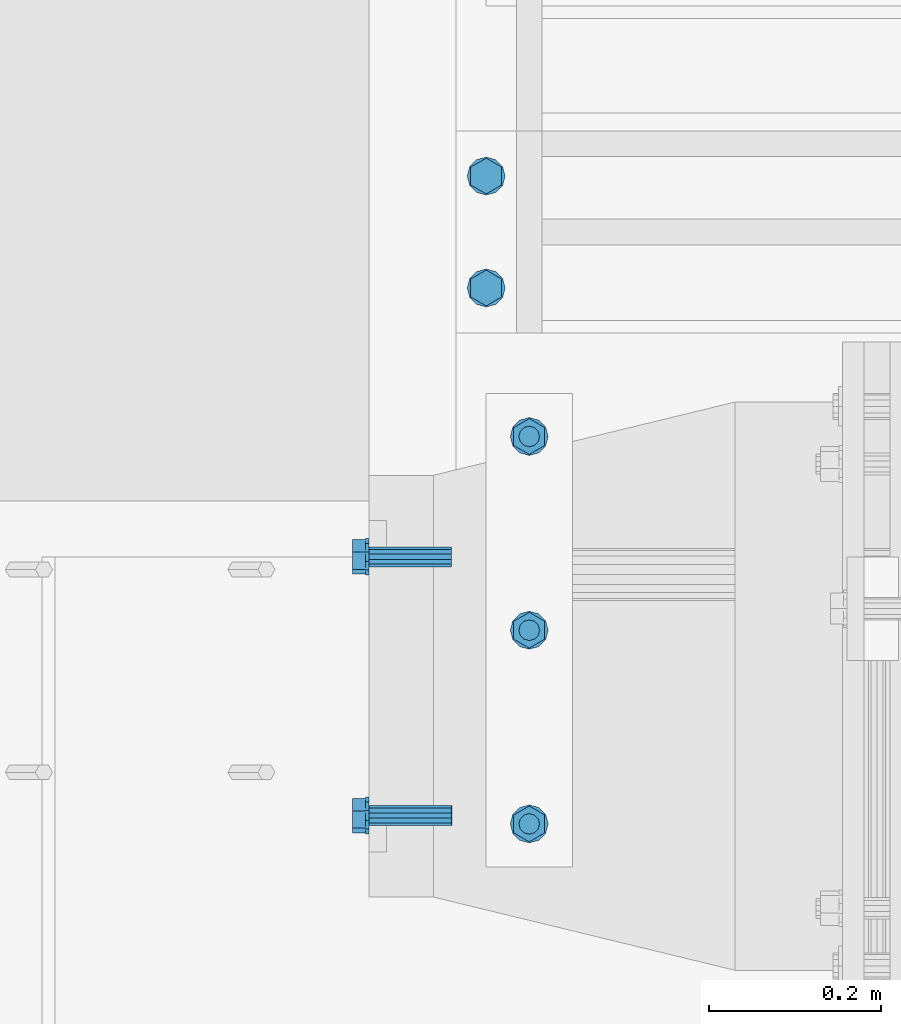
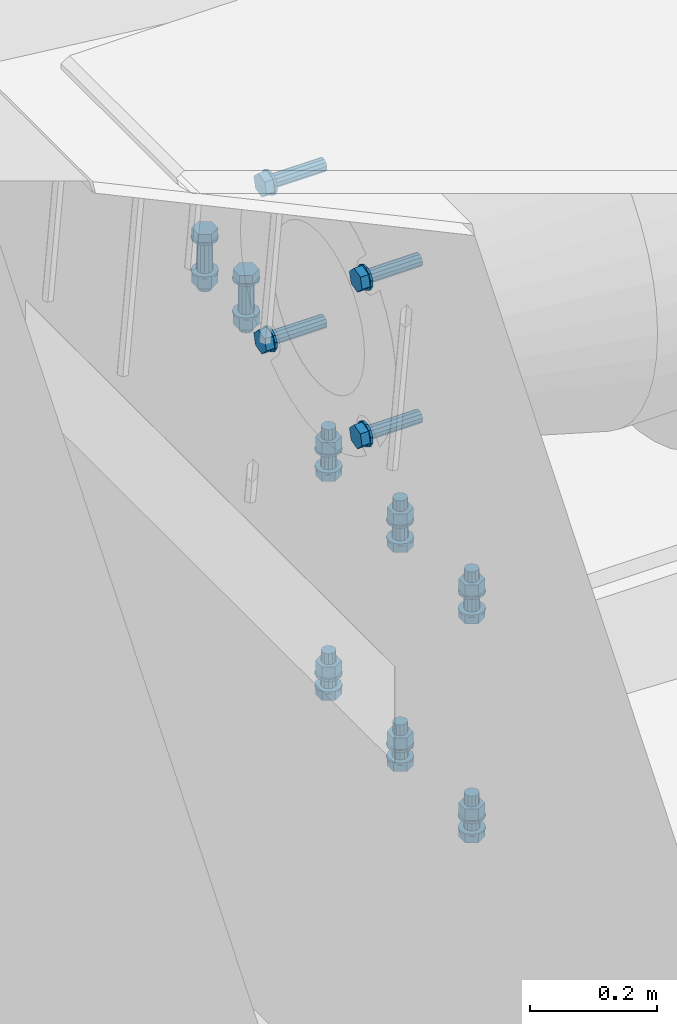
# One storey, part 32 of 1530: 4 mechanical fasteners.
"""IFC2X3 building model written with IfcOpenShell, lengths in millimetres."""

from ifc_helpers import new_model, si_unit, frame, origin_with_axes, place, context, subcontext, project, spatial, faceted_brep, source, transform, mapped, material, type_object, element, save


model = new_model("IFC2X3")

# Units and contexts
model_context = context("Model", 3, precision=1e-05, world=origin_with_axes())
body_context = subcontext(model_context, "Body", "Model", "MODEL_VIEW")
ifc_project = project(units=[si_unit("LENGTHUNIT", "METRE", prefix="MILLI"), si_unit("AREAUNIT", "SQUARE_METRE"), si_unit("VOLUMEUNIT", "CUBIC_METRE"), si_unit("MASSUNIT", "GRAM", prefix="KILO"), si_unit("TIMEUNIT", "SECOND"), si_unit("PLANEANGLEUNIT", "RADIAN"), si_unit("SOLIDANGLEUNIT", "STERADIAN"), si_unit("THERMODYNAMICTEMPERATUREUNIT", "DEGREE_CELSIUS"), si_unit("LUMINOUSINTENSITYUNIT", "LUMEN")], contexts=[model_context])

# Site, building, storey
site_placement = place(None, origin_with_axes())
site = spatial("IfcSite", under=ifc_project, at=site_placement, Name="Brattvåg", CompositionType="ELEMENT")
building_placement = place(site_placement, origin_with_axes())
building = spatial("IfcBuilding", under=site, at=building_placement, Name="Undefined", CompositionType="ELEMENT")
storey_placement = place(building_placement, origin_with_axes())
storey = spatial("IfcBuildingStorey", under=building, at=storey_placement, Name="Undefined", CompositionType="ELEMENT", Elevation=0.0)

# Mechanical fasteners
ifc_material = material(Name="8")
mechanical_fastener_type = type_object("IfcMechanicalFastenerType", Name="Bolt assembly")
shared_shape_1 = source(origin_with_axes(), body_context, "Body", "Brep", [
    faceted_brep([(20.7846096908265, -39.0003051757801, 0.0), (10.3923048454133, -39.0003051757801, 18.0), (-10.3923048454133, -39.0003051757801, 18.0), (-20.7846096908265, -39.0003051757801, 2.54538057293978e-15), (-10.3923048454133, -39.0003051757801, -18.0), (10.3923048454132, -39.0003051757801, -18.0), (10.3923048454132, -24.0003051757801, -18.0), (-10.3923048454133, -24.0003051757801, -18.0), (-20.7846096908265, -24.0003051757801, 2.54538057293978e-15), (-10.3923048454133, -24.0003051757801, 18.0), (10.3923048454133, -24.0003051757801, 18.0), (20.7846096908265, -24.0003051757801, 0.0), (12.0, -24.0003051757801, 0.0), (10.3923048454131, -24.0003051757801, 6.00000000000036), (5.99999999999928, -24.0003051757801, 10.3923048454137), (-1.24360317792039e-12, -24.0003051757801, 12.0), (-6.00000000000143, -24.0003051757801, 10.3923048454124), (-10.3923048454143, -24.0003051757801, 5.99999999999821), (-12.0, -24.0003051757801, -2.48720635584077e-12), (-10.3923048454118, -24.0003051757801, -6.00000000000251), (-5.99999999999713, -24.0003051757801, -10.3923048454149), (3.71748685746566e-12, -24.0003051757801, -12.0), (6.00000000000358, -24.0003051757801, -10.3923048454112), (10.3923048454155, -24.0003051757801, -5.99999999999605), (10.3923048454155, 45.9996948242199, -5.99999999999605), (6.00000000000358, 45.9996948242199, -10.3923048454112), (3.71748685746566e-12, 45.9996948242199, -12.0), (-5.99999999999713, 45.9996948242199, -10.3923048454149), (-10.3923048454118, 45.9996948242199, -6.00000000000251), (-12.0, 45.9996948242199, -2.48720635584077e-12), (-10.3923048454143, 45.9996948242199, 5.99999999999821), (-6.00000000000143, 45.9996948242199, 10.3923048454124), (-1.24360317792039e-12, 45.9996948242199, 12.0), (5.99999999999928, 45.9996948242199, 10.3923048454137), (10.3923048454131, 45.9996948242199, 6.00000000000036), (12.0, 45.9996948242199, 0.0), (22.0, -24.0003051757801, 0.0), (19.0525588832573, -24.0003051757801, 11.0000000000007), (10.9999999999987, -24.0003051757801, 19.0525588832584), (-2.27993915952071e-12, -24.0003051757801, 22.0), (-11.0000000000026, -24.0003051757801, 19.0525588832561), (-19.0525588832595, -24.0003051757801, 10.9999999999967), (-22.0, -24.0003051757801, -4.55987831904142e-12), (-19.052558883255, -24.0003051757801, -11.0000000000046), (-10.9999999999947, -24.0003051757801, -19.0525588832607), (6.81539257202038e-12, -24.0003051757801, -22.0), (11.0000000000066, -24.0003051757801, -19.0525588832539), (19.0525588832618, -24.0003051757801, -10.9999999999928), (19.0525588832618, -20.0003051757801, -10.9999999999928), (11.0000000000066, -20.0003051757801, -19.0525588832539), (6.81539257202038e-12, -20.0003051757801, -22.0), (-10.9999999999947, -20.0003051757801, -19.0525588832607), (-19.052558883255, -20.0003051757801, -11.0000000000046), (-22.0, -20.0003051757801, -4.55987831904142e-12), (-19.0525588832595, -20.0003051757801, 10.9999999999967), (-11.0000000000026, -20.0003051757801, 19.0525588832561), (-2.27993915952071e-12, -20.0003051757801, 22.0), (10.9999999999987, -20.0003051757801, 19.0525588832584), (19.0525588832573, -20.0003051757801, 11.0000000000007), (22.0, -20.0003051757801, 0.0), (22.0, -0.000305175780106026, 0.0), (19.0525588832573, -0.000305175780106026, 11.0000000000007), (10.9999999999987, -0.000305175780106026, 19.0525588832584), (-2.27993915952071e-12, -0.000305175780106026, 22.0), (-11.0000000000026, -0.000305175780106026, 19.0525588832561), (-19.0525588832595, -0.000305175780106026, 10.9999999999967), (-22.0, -0.000305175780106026, -4.55987831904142e-12), (-19.052558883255, -0.000305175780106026, -11.0000000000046), (-10.9999999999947, -0.000305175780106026, -19.0525588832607), (6.81539257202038e-12, -0.000305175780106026, -22.0), (11.0000000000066, -0.000305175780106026, -19.0525588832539), (19.0525588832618, -0.000305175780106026, -10.9999999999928), (19.0525588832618, 3.99969482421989, -10.9999999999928), (11.0000000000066, 3.99969482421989, -19.0525588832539), (6.81539257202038e-12, 3.99969482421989, -22.0), (-10.9999999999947, 3.99969482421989, -19.0525588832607), (-19.052558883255, 3.99969482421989, -11.0000000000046), (-22.0, 3.99969482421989, -4.55987831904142e-12), (-19.0525588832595, 3.99969482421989, 10.9999999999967), (-11.0000000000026, 3.99969482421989, 19.0525588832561), (-2.27993915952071e-12, 3.99969482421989, 22.0), (10.9999999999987, 3.99969482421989, 19.0525588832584), (19.0525588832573, 3.99969482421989, 11.0000000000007), (22.0, 3.99969482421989, 0.0), (20.7846096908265, 3.99969482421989, 0.0), (10.3923048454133, 3.99969482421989, 18.0), (-10.3923048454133, 3.99969482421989, 18.0), (-20.7846096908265, 3.99969482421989, 2.54538057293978e-15), (-10.3923048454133, 3.99969482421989, -18.0), (10.3923048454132, 3.99969482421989, -18.0), (10.3923048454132, 25.4996948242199, -18.0), (-10.3923048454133, 25.4996948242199, -18.0), (-20.7846096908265, 25.4996948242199, 2.54538057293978e-15), (-10.3923048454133, 25.4996948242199, 18.0), (10.3923048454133, 25.4996948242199, 18.0), (20.7846096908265, 25.4996948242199, 0.0)], [[[0, 1, 2, 3, 4, 5]], [[6, 7, 8, 9, 10, 11]], [[0, 11, 10, 1]], [[1, 10, 9, 2]], [[2, 9, 8, 3]], [[3, 8, 7, 4]], [[4, 7, 6, 5]], [[5, 6, 11, 0]], [[12, 13, 14, 15, 16, 17, 18, 19, 20, 21, 22, 23]], [[24, 25, 26, 27, 28, 29, 30, 31, 32, 33, 34, 35]], [[12, 35, 34, 13]], [[13, 34, 33, 14]], [[14, 33, 32, 15]], [[15, 32, 31, 16]], [[16, 31, 30, 17]], [[17, 30, 29, 18]], [[18, 29, 28, 19]], [[19, 28, 27, 20]], [[20, 27, 26, 21]], [[21, 26, 25, 22]], [[22, 25, 24, 23]], [[23, 24, 35, 12]], [[36, 37, 38, 39, 40, 41, 42, 43, 44, 45, 46, 47]], [[48, 49, 50, 51, 52, 53, 54, 55, 56, 57, 58, 59]], [[36, 59, 58, 37]], [[37, 58, 57, 38]], [[38, 57, 56, 39]], [[39, 56, 55, 40]], [[40, 55, 54, 41]], [[41, 54, 53, 42]], [[42, 53, 52, 43]], [[43, 52, 51, 44]], [[44, 51, 50, 45]], [[45, 50, 49, 46]], [[46, 49, 48, 47]], [[47, 48, 59, 36]], [[60, 61, 62, 63, 64, 65, 66, 67, 68, 69, 70, 71]], [[72, 73, 74, 75, 76, 77, 78, 79, 80, 81, 82, 83]], [[60, 83, 82, 61]], [[61, 82, 81, 62]], [[62, 81, 80, 63]], [[63, 80, 79, 64]], [[64, 79, 78, 65]], [[65, 78, 77, 66]], [[66, 77, 76, 67]], [[67, 76, 75, 68]], [[68, 75, 74, 69]], [[69, 74, 73, 70]], [[70, 73, 72, 71]], [[71, 72, 83, 60]], [[84, 85, 86, 87, 88, 89]], [[90, 91, 92, 93, 94, 95]], [[84, 95, 94, 85]], [[85, 94, 93, 86]], [[86, 93, 92, 87]], [[87, 92, 91, 88]], [[88, 91, 90, 89]], [[89, 90, 95, 84]]]),
    faceted_brep([(13.0, -20.0003051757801, 0.0), (11.2583302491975, -20.0003051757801, 6.50000000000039), (6.49999999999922, -20.0003051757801, 11.2583302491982), (-1.34723677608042e-12, -20.0003051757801, 13.0), (-6.50000000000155, -20.0003051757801, 11.2583302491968), (-11.2583302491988, -20.0003051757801, 6.49999999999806), (-13.0, -20.0003051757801, -2.69447355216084e-12), (-11.2583302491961, -20.0003051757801, -6.50000000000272), (-6.4999999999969, -20.0003051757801, -11.2583302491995), (4.02727742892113e-12, -20.0003051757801, -13.0), (6.50000000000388, -20.0003051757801, -11.2583302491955), (11.2583302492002, -20.0003051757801, -6.49999999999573), (11.2583302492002, 0.0996948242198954, -6.49999999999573), (6.50000000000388, 0.0996948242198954, -11.2583302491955), (4.02727742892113e-12, 0.0996948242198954, -13.0), (-6.4999999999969, 0.0996948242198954, -11.2583302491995), (-11.2583302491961, 0.0996948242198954, -6.50000000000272), (-13.0, 0.0996948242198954, -2.69447355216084e-12), (-11.2583302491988, 0.0996948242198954, 6.49999999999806), (-6.50000000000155, 0.0996948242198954, 11.2583302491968), (-1.34723677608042e-12, 0.0996948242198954, 13.0), (6.49999999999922, 0.0996948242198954, 11.2583302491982), (11.2583302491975, 0.0996948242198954, 6.50000000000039), (13.0, 0.0996948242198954, 0.0)], [[[0, 1, 2, 3, 4, 5, 6, 7, 8, 9, 10, 11]], [[12, 13, 14, 15, 16, 17, 18, 19, 20, 21, 22, 23]], [[0, 23, 22, 1]], [[1, 22, 21, 2]], [[2, 21, 20, 3]], [[3, 20, 19, 4]], [[4, 19, 18, 5]], [[5, 18, 17, 6]], [[6, 17, 16, 7]], [[7, 16, 15, 8]], [[8, 15, 14, 9]], [[9, 14, 13, 10]], [[10, 13, 12, 11]], [[11, 12, 23, 0]]]),
])
mechanical_fastener_1_placement = place(storey_placement, frame((-438.999490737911, 8839.99881744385, -1458.00001144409), z_axis=(1.0, 0.0, 0.0), x_axis=(0.0, 1.0, 0.0)))
element("IfcMechanicalFastener", 1, at=mechanical_fastener_1_placement, inside=storey, type_object=mechanical_fastener_type, material=ifc_material, Name="Bolt assembly", NominalDiameter=24.0, NominalLength=70.0, context=body_context, shape_type="MappedRepresentation", body=[
    mapped(shared_shape_1, transform((0.0, 0.0, 0.0))),
    mapped(shared_shape_1, transform((225.0, 0.0, 0.0))),
    mapped(shared_shape_1, transform((450.0, 0.0, 0.0))),
])
shared_shape_2 = source(origin_with_axes(), body_context, "Body", "Brep", [
    faceted_brep([(20.7846096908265, -49.0000000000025, 0.0), (10.3923048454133, -49.0000000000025, 18.0), (-10.3923048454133, -49.0000000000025, 18.0), (-20.7846096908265, -49.0000000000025, 2.54538057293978e-15), (-10.3923048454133, -49.0000000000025, -18.0), (10.3923048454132, -49.0000000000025, -18.0), (10.3923048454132, -34.0000000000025, -18.0), (-10.3923048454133, -34.0000000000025, -18.0), (-20.7846096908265, -34.0000000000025, 2.54538057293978e-15), (-10.3923048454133, -34.0000000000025, 18.0), (10.3923048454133, -34.0000000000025, 18.0), (20.7846096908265, -34.0000000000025, 0.0), (12.0, -34.0000000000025, 0.0), (10.3923048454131, -34.0000000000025, 6.00000000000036), (5.99999999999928, -34.0000000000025, 10.3923048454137), (-1.24360317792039e-12, -34.0000000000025, 12.0), (-6.00000000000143, -34.0000000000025, 10.3923048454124), (-10.3923048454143, -34.0000000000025, 5.99999999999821), (-12.0, -34.0000000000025, -2.48720635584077e-12), (-10.3923048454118, -34.0000000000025, -6.00000000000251), (-5.99999999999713, -34.0000000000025, -10.3923048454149), (3.71748685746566e-12, -34.0000000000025, -12.0), (6.00000000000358, -34.0000000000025, -10.3923048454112), (10.3923048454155, -34.0000000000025, -5.99999999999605), (10.3923048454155, 65.9999999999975, -5.99999999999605), (6.00000000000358, 65.9999999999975, -10.3923048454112), (3.71748685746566e-12, 65.9999999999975, -12.0), (-5.99999999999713, 65.9999999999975, -10.3923048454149), (-10.3923048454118, 65.9999999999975, -6.00000000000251), (-12.0, 65.9999999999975, -2.48720635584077e-12), (-10.3923048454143, 65.9999999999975, 5.99999999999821), (-6.00000000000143, 65.9999999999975, 10.3923048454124), (-1.24360317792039e-12, 65.9999999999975, 12.0), (5.99999999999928, 65.9999999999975, 10.3923048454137), (10.3923048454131, 65.9999999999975, 6.00000000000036), (12.0, 65.9999999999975, 0.0), (22.0, -34.0000000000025, 0.0), (19.0525588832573, -34.0000000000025, 11.0000000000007), (10.9999999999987, -34.0000000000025, 19.0525588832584), (-2.27993915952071e-12, -34.0000000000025, 22.0), (-11.0000000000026, -34.0000000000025, 19.0525588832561), (-19.0525588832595, -34.0000000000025, 10.9999999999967), (-22.0, -34.0000000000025, -4.55987831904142e-12), (-19.052558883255, -34.0000000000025, -11.0000000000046), (-10.9999999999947, -34.0000000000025, -19.0525588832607), (6.81539257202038e-12, -34.0000000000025, -22.0), (11.0000000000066, -34.0000000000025, -19.0525588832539), (19.0525588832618, -34.0000000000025, -10.9999999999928), (19.0525588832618, -30.0000000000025, -10.9999999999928), (11.0000000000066, -30.0000000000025, -19.0525588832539), (6.81539257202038e-12, -30.0000000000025, -22.0), (-10.9999999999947, -30.0000000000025, -19.0525588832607), (-19.052558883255, -30.0000000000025, -11.0000000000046), (-22.0, -30.0000000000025, -4.55987831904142e-12), (-19.0525588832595, -30.0000000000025, 10.9999999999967), (-11.0000000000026, -30.0000000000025, 19.0525588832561), (-2.27993915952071e-12, -30.0000000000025, 22.0), (10.9999999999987, -30.0000000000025, 19.0525588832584), (19.0525588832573, -30.0000000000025, 11.0000000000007), (22.0, -30.0000000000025, 0.0), (22.0, 29.9999999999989, 0.0), (19.0525588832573, 29.9999999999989, 11.0000000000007), (10.9999999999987, 29.9999999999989, 19.0525588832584), (-2.27993915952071e-12, 29.9999999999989, 22.0), (-11.0000000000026, 29.9999999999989, 19.0525588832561), (-19.0525588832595, 29.9999999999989, 10.9999999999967), (-22.0, 29.9999999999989, -4.55987831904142e-12), (-19.052558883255, 29.9999999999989, -11.0000000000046), (-10.9999999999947, 29.9999999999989, -19.0525588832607), (6.81539257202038e-12, 29.9999999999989, -22.0), (11.0000000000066, 29.9999999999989, -19.0525588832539), (19.0525588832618, 29.9999999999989, -10.9999999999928), (19.0525588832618, 33.9999999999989, -10.9999999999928), (11.0000000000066, 33.9999999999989, -19.0525588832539), (6.81539257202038e-12, 33.9999999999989, -22.0), (-10.9999999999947, 33.9999999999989, -19.0525588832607), (-19.052558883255, 33.9999999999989, -11.0000000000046), (-22.0, 33.9999999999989, -4.55987831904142e-12), (-19.0525588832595, 33.9999999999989, 10.9999999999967), (-11.0000000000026, 33.9999999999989, 19.0525588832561), (-2.27993915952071e-12, 33.9999999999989, 22.0), (10.9999999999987, 33.9999999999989, 19.0525588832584), (19.0525588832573, 33.9999999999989, 11.0000000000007), (22.0, 33.9999999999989, 0.0), (20.7846096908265, 33.9999999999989, 0.0), (10.3923048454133, 33.9999999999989, 18.0), (-10.3923048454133, 33.9999999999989, 18.0), (-20.7846096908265, 33.9999999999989, 2.54538057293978e-15), (-10.3923048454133, 33.9999999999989, -18.0), (10.3923048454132, 33.9999999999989, -18.0), (10.3923048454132, 55.4999999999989, -18.0), (-10.3923048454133, 55.4999999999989, -18.0), (-20.7846096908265, 55.4999999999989, 2.54538057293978e-15), (-10.3923048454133, 55.4999999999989, 18.0), (10.3923048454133, 55.4999999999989, 18.0), (20.7846096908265, 55.4999999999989, 0.0)], [[[0, 1, 2, 3, 4, 5]], [[6, 7, 8, 9, 10, 11]], [[0, 11, 10, 1]], [[1, 10, 9, 2]], [[2, 9, 8, 3]], [[3, 8, 7, 4]], [[4, 7, 6, 5]], [[5, 6, 11, 0]], [[12, 13, 14, 15, 16, 17, 18, 19, 20, 21, 22, 23]], [[24, 25, 26, 27, 28, 29, 30, 31, 32, 33, 34, 35]], [[12, 35, 34, 13]], [[13, 34, 33, 14]], [[14, 33, 32, 15]], [[15, 32, 31, 16]], [[16, 31, 30, 17]], [[17, 30, 29, 18]], [[18, 29, 28, 19]], [[19, 28, 27, 20]], [[20, 27, 26, 21]], [[21, 26, 25, 22]], [[22, 25, 24, 23]], [[23, 24, 35, 12]], [[36, 37, 38, 39, 40, 41, 42, 43, 44, 45, 46, 47]], [[48, 49, 50, 51, 52, 53, 54, 55, 56, 57, 58, 59]], [[36, 59, 58, 37]], [[37, 58, 57, 38]], [[38, 57, 56, 39]], [[39, 56, 55, 40]], [[40, 55, 54, 41]], [[41, 54, 53, 42]], [[42, 53, 52, 43]], [[43, 52, 51, 44]], [[44, 51, 50, 45]], [[45, 50, 49, 46]], [[46, 49, 48, 47]], [[47, 48, 59, 36]], [[60, 61, 62, 63, 64, 65, 66, 67, 68, 69, 70, 71]], [[72, 73, 74, 75, 76, 77, 78, 79, 80, 81, 82, 83]], [[60, 83, 82, 61]], [[61, 82, 81, 62]], [[62, 81, 80, 63]], [[63, 80, 79, 64]], [[64, 79, 78, 65]], [[65, 78, 77, 66]], [[66, 77, 76, 67]], [[67, 76, 75, 68]], [[68, 75, 74, 69]], [[69, 74, 73, 70]], [[70, 73, 72, 71]], [[71, 72, 83, 60]], [[84, 85, 86, 87, 88, 89]], [[90, 91, 92, 93, 94, 95]], [[84, 95, 94, 85]], [[85, 94, 93, 86]], [[86, 93, 92, 87]], [[87, 92, 91, 88]], [[88, 91, 90, 89]], [[89, 90, 95, 84]]]),
    faceted_brep([(13.0, -29.9000000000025, 0.0), (11.2583302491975, -29.9000000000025, 6.50000000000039), (6.49999999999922, -29.9000000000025, 11.2583302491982), (-1.34723677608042e-12, -29.9000000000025, 13.0), (-6.50000000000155, -29.9000000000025, 11.2583302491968), (-11.2583302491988, -29.9000000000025, 6.49999999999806), (-13.0, -29.9000000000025, -2.69447355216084e-12), (-11.2583302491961, -29.9000000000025, -6.50000000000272), (-6.4999999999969, -29.9000000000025, -11.2583302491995), (4.02727742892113e-12, -29.9000000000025, -13.0), (6.50000000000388, -29.9000000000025, -11.2583302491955), (11.2583302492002, -29.9000000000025, -6.49999999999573), (11.2583302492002, 0.0999999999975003, -6.49999999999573), (6.50000000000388, 0.0999999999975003, -11.2583302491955), (4.02727742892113e-12, 0.0999999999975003, -13.0), (-6.4999999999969, 0.0999999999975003, -11.2583302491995), (-11.2583302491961, 0.0999999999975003, -6.50000000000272), (-13.0, 0.0999999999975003, -2.69447355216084e-12), (-11.2583302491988, 0.0999999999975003, 6.49999999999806), (-6.50000000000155, 0.0999999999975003, 11.2583302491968), (-1.34723677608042e-12, 0.0999999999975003, 13.0), (6.49999999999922, 0.0999999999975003, 11.2583302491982), (11.2583302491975, 0.0999999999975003, 6.50000000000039), (13.0, 0.0999999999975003, 0.0), (13.0, -0.100000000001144, 0.0), (11.2583302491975, -0.100000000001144, 6.50000000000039), (6.49999999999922, -0.100000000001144, 11.2583302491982), (-1.34723677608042e-12, -0.100000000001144, 13.0), (-6.50000000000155, -0.100000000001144, 11.2583302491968), (-11.2583302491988, -0.100000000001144, 6.49999999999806), (-13.0, -0.100000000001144, -2.69447355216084e-12), (-11.2583302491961, -0.100000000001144, -6.50000000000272), (-6.4999999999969, -0.100000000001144, -11.2583302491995), (4.02727742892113e-12, -0.100000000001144, -13.0), (6.50000000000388, -0.100000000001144, -11.2583302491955), (11.2583302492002, -0.100000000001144, -6.49999999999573), (11.2583302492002, 29.9999999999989, -6.49999999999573), (6.50000000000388, 29.9999999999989, -11.2583302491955), (4.02727742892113e-12, 29.9999999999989, -13.0), (-6.4999999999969, 29.9999999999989, -11.2583302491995), (-11.2583302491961, 29.9999999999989, -6.50000000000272), (-13.0, 29.9999999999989, -2.69447355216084e-12), (-11.2583302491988, 29.9999999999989, 6.49999999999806), (-6.50000000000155, 29.9999999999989, 11.2583302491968), (-1.34723677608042e-12, 29.9999999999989, 13.0), (6.49999999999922, 29.9999999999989, 11.2583302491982), (11.2583302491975, 29.9999999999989, 6.50000000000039), (13.0, 29.9999999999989, 0.0)], [[[0, 1, 2, 3, 4, 5, 6, 7, 8, 9, 10, 11]], [[12, 13, 14, 15, 16, 17, 18, 19, 20, 21, 22, 23]], [[0, 23, 22, 1]], [[1, 22, 21, 2]], [[2, 21, 20, 3]], [[3, 20, 19, 4]], [[4, 19, 18, 5]], [[5, 18, 17, 6]], [[6, 17, 16, 7]], [[7, 16, 15, 8]], [[8, 15, 14, 9]], [[9, 14, 13, 10]], [[10, 13, 12, 11]], [[11, 12, 23, 0]], [[24, 25, 26, 27, 28, 29, 30, 31, 32, 33, 34, 35]], [[36, 37, 38, 39, 40, 41, 42, 43, 44, 45, 46, 47]], [[24, 47, 46, 25]], [[25, 46, 45, 26]], [[26, 45, 44, 27]], [[27, 44, 43, 28]], [[28, 43, 42, 29]], [[29, 42, 41, 30]], [[30, 41, 40, 31]], [[31, 40, 39, 32]], [[32, 39, 38, 33]], [[33, 38, 37, 34]], [[34, 37, 36, 35]], [[35, 36, 47, 24]]]),
])
mechanical_fastener_2_placement = place(storey_placement, frame((-488.999828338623, 9592.49893188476, -817.999973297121), z_axis=(1.0, 0.0, 0.0), x_axis=(0.0, -1.0, 0.0)))
element("IfcMechanicalFastener", 2, at=mechanical_fastener_2_placement, inside=storey, type_object=mechanical_fastener_type, material=ifc_material, Name="Bolt assembly", NominalDiameter=24.0, NominalLength=100.0, context=body_context, shape_type="MappedRepresentation", body=[
    mapped(shared_shape_2, transform((0.0, 0.0, 0.0))),
    mapped(shared_shape_2, transform((130.0, 0.0, 0.0))),
])
shared_shape_3 = source(origin_with_axes(), body_context, "Body", "Brep", [
    faceted_brep([(20.7846096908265, -49.0000000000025, 0.0), (10.3923048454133, -49.0000000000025, 18.0), (-10.3923048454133, -49.0000000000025, 18.0), (-20.7846096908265, -49.0000000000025, 2.54538057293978e-15), (-10.3923048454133, -49.0000000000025, -18.0), (10.3923048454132, -49.0000000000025, -18.0), (10.3923048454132, -34.0000000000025, -18.0), (-10.3923048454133, -34.0000000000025, -18.0), (-20.7846096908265, -34.0000000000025, 2.54538057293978e-15), (-10.3923048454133, -34.0000000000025, 18.0), (10.3923048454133, -34.0000000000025, 18.0), (20.7846096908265, -34.0000000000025, 0.0), (12.0, -34.0000000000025, 0.0), (10.3923048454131, -34.0000000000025, 6.00000000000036), (5.99999999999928, -34.0000000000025, 10.3923048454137), (-1.24360317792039e-12, -34.0000000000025, 12.0), (-6.00000000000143, -34.0000000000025, 10.3923048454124), (-10.3923048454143, -34.0000000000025, 5.99999999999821), (-12.0, -34.0000000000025, -2.48720635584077e-12), (-10.3923048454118, -34.0000000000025, -6.00000000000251), (-5.99999999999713, -34.0000000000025, -10.3923048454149), (3.71748685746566e-12, -34.0000000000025, -12.0), (6.00000000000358, -34.0000000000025, -10.3923048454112), (10.3923048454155, -34.0000000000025, -5.99999999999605), (10.3923048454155, 46.0, -5.99999999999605), (6.00000000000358, 46.0, -10.3923048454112), (3.71748685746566e-12, 46.0, -12.0), (-5.99999999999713, 46.0, -10.3923048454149), (-10.3923048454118, 46.0, -6.00000000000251), (-12.0, 46.0, -2.48720635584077e-12), (-10.3923048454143, 46.0, 5.99999999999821), (-6.00000000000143, 46.0, 10.3923048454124), (-1.24360317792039e-12, 46.0, 12.0), (5.99999999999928, 46.0, 10.3923048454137), (10.3923048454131, 46.0, 6.00000000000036), (12.0, 46.0, 0.0), (22.0, -34.0000000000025, 0.0), (19.0525588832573, -34.0000000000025, 11.0000000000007), (10.9999999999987, -34.0000000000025, 19.0525588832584), (-2.27993915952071e-12, -34.0000000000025, 22.0), (-11.0000000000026, -34.0000000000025, 19.0525588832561), (-19.0525588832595, -34.0000000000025, 10.9999999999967), (-22.0, -34.0000000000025, -4.55987831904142e-12), (-19.052558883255, -34.0000000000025, -11.0000000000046), (-10.9999999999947, -34.0000000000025, -19.0525588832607), (6.81539257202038e-12, -34.0000000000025, -22.0), (11.0000000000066, -34.0000000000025, -19.0525588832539), (19.0525588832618, -34.0000000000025, -10.9999999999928), (19.0525588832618, -30.0000000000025, -10.9999999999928), (11.0000000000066, -30.0000000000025, -19.0525588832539), (6.81539257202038e-12, -30.0000000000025, -22.0), (-10.9999999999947, -30.0000000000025, -19.0525588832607), (-19.052558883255, -30.0000000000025, -11.0000000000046), (-22.0, -30.0000000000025, -4.55987831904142e-12), (-19.0525588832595, -30.0000000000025, 10.9999999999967), (-11.0000000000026, -30.0000000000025, 19.0525588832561), (-2.27993915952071e-12, -30.0000000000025, 22.0), (10.9999999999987, -30.0000000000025, 19.0525588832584), (19.0525588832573, -30.0000000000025, 11.0000000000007), (22.0, -30.0000000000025, 0.0), (22.0, 0.0, 0.0), (19.0525588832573, 0.0, 11.0000000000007), (10.9999999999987, 0.0, 19.0525588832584), (-2.27993915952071e-12, 0.0, 22.0), (-11.0000000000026, 0.0, 19.0525588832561), (-19.0525588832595, 0.0, 10.9999999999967), (-22.0, 0.0, -4.55987831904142e-12), (-19.052558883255, 0.0, -11.0000000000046), (-10.9999999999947, 0.0, -19.0525588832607), (6.81539257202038e-12, 0.0, -22.0), (11.0000000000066, 0.0, -19.0525588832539), (19.0525588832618, 0.0, -10.9999999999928), (19.0525588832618, 4.0, -10.9999999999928), (11.0000000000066, 4.0, -19.0525588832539), (6.81539257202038e-12, 4.0, -22.0), (-10.9999999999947, 4.0, -19.0525588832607), (-19.052558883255, 4.0, -11.0000000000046), (-22.0, 4.0, -4.55987831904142e-12), (-19.0525588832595, 4.0, 10.9999999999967), (-11.0000000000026, 4.0, 19.0525588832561), (-2.27993915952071e-12, 4.0, 22.0), (10.9999999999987, 4.0, 19.0525588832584), (19.0525588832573, 4.0, 11.0000000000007), (22.0, 4.0, 0.0), (20.7846096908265, 4.0, 0.0), (10.3923048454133, 4.0, 18.0), (-10.3923048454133, 4.0, 18.0), (-20.7846096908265, 4.0, 2.54538057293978e-15), (-10.3923048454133, 4.0, -18.0), (10.3923048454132, 4.0, -18.0), (10.3923048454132, 25.5, -18.0), (-10.3923048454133, 25.5, -18.0), (-20.7846096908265, 25.5, 2.54538057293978e-15), (-10.3923048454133, 25.5, 18.0), (10.3923048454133, 25.5, 18.0), (20.7846096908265, 25.5, 0.0)], [[[0, 1, 2, 3, 4, 5]], [[6, 7, 8, 9, 10, 11]], [[0, 11, 10, 1]], [[1, 10, 9, 2]], [[2, 9, 8, 3]], [[3, 8, 7, 4]], [[4, 7, 6, 5]], [[5, 6, 11, 0]], [[12, 13, 14, 15, 16, 17, 18, 19, 20, 21, 22, 23]], [[24, 25, 26, 27, 28, 29, 30, 31, 32, 33, 34, 35]], [[12, 35, 34, 13]], [[13, 34, 33, 14]], [[14, 33, 32, 15]], [[15, 32, 31, 16]], [[16, 31, 30, 17]], [[17, 30, 29, 18]], [[18, 29, 28, 19]], [[19, 28, 27, 20]], [[20, 27, 26, 21]], [[21, 26, 25, 22]], [[22, 25, 24, 23]], [[23, 24, 35, 12]], [[36, 37, 38, 39, 40, 41, 42, 43, 44, 45, 46, 47]], [[48, 49, 50, 51, 52, 53, 54, 55, 56, 57, 58, 59]], [[36, 59, 58, 37]], [[37, 58, 57, 38]], [[38, 57, 56, 39]], [[39, 56, 55, 40]], [[40, 55, 54, 41]], [[41, 54, 53, 42]], [[42, 53, 52, 43]], [[43, 52, 51, 44]], [[44, 51, 50, 45]], [[45, 50, 49, 46]], [[46, 49, 48, 47]], [[47, 48, 59, 36]], [[60, 61, 62, 63, 64, 65, 66, 67, 68, 69, 70, 71]], [[72, 73, 74, 75, 76, 77, 78, 79, 80, 81, 82, 83]], [[60, 83, 82, 61]], [[61, 82, 81, 62]], [[62, 81, 80, 63]], [[63, 80, 79, 64]], [[64, 79, 78, 65]], [[65, 78, 77, 66]], [[66, 77, 76, 67]], [[67, 76, 75, 68]], [[68, 75, 74, 69]], [[69, 74, 73, 70]], [[70, 73, 72, 71]], [[71, 72, 83, 60]], [[84, 85, 86, 87, 88, 89]], [[90, 91, 92, 93, 94, 95]], [[84, 95, 94, 85]], [[85, 94, 93, 86]], [[86, 93, 92, 87]], [[87, 92, 91, 88]], [[88, 91, 90, 89]], [[89, 90, 95, 84]]]),
    faceted_brep([(13.0, -30.0, 0.0), (11.2583302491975, -30.0, 6.50000000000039), (6.49999999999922, -30.0, 11.2583302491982), (-1.34723677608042e-12, -30.0, 13.0), (-6.50000000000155, -30.0, 11.2583302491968), (-11.2583302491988, -30.0, 6.49999999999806), (-13.0, -30.0, -2.69447355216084e-12), (-11.2583302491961, -30.0, -6.50000000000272), (-6.4999999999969, -30.0, -11.2583302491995), (4.02727742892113e-12, -30.0, -13.0), (6.50000000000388, -30.0, -11.2583302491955), (11.2583302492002, -30.0, -6.49999999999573), (11.2583302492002, 0.0999999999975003, -6.49999999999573), (6.50000000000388, 0.0999999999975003, -11.2583302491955), (4.02727742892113e-12, 0.0999999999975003, -13.0), (-6.4999999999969, 0.0999999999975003, -11.2583302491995), (-11.2583302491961, 0.0999999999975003, -6.50000000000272), (-13.0, 0.0999999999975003, -2.69447355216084e-12), (-11.2583302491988, 0.0999999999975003, 6.49999999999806), (-6.50000000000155, 0.0999999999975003, 11.2583302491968), (-1.34723677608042e-12, 0.0999999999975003, 13.0), (6.49999999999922, 0.0999999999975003, 11.2583302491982), (11.2583302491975, 0.0999999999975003, 6.50000000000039), (13.0, 0.0999999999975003, 0.0)], [[[0, 1, 2, 3, 4, 5, 6, 7, 8, 9, 10, 11]], [[12, 13, 14, 15, 16, 17, 18, 19, 20, 21, 22, 23]], [[0, 23, 22, 1]], [[1, 22, 21, 2]], [[2, 21, 20, 3]], [[3, 20, 19, 4]], [[4, 19, 18, 5]], [[5, 18, 17, 6]], [[6, 17, 16, 7]], [[7, 16, 15, 8]], [[8, 15, 14, 9]], [[9, 14, 13, 10]], [[10, 13, 12, 11]], [[11, 12, 23, 0]]]),
])
mechanical_fastener_3_placement = place(storey_placement, frame((-438.999490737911, 8839.99881744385, -1028.00001144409), z_axis=(1.0, 0.0, 0.0), x_axis=(0.0, 1.0, 0.0)))
element("IfcMechanicalFastener", 3, at=mechanical_fastener_3_placement, inside=storey, type_object=mechanical_fastener_type, material=ifc_material, Name="Bolt assembly", NominalDiameter=24.0, NominalLength=80.0, context=body_context, shape_type="MappedRepresentation", body=[
    mapped(shared_shape_3, transform((0.0, 0.0, 0.0))),
    mapped(shared_shape_3, transform((225.0, 0.0, 0.0))),
    mapped(shared_shape_3, transform((450.0, 0.0, 0.0))),
])
shared_shape_4 = source(origin_with_axes(), body_context, "Body", "Brep", [
    faceted_brep([(20.7846096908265, -19.0, 0.0), (10.3923048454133, -19.0, 18.0), (-10.3923048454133, -19.0, 18.0), (-20.7846096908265, -19.0, 2.54538057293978e-15), (-10.3923048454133, -19.0, -18.0), (10.3923048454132, -19.0, -18.0), (10.3923048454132, -4.0, -18.0), (-10.3923048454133, -4.0, -18.0), (-20.7846096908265, -4.0, 2.54538057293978e-15), (-10.3923048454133, -4.0, 18.0), (10.3923048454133, -4.0, 18.0), (20.7846096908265, -4.0, 0.0), (12.0, -4.0, 0.0), (10.3923048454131, -4.0, 6.00000000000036), (5.99999999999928, -4.0, 10.3923048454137), (-1.24360317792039e-12, -4.0, 12.0), (-6.00000000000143, -4.0, 10.3923048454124), (-10.3923048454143, -4.0, 5.99999999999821), (-12.0, -4.0, -2.48720635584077e-12), (-10.3923048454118, -4.0, -6.00000000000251), (-5.99999999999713, -4.0, -10.3923048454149), (3.71748685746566e-12, -4.0, -12.0), (6.00000000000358, -4.0, -10.3923048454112), (10.3923048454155, -4.0, -5.99999999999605), (10.3923048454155, 96.0, -5.99999999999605), (6.00000000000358, 96.0, -10.3923048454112), (3.71748685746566e-12, 96.0, -12.0), (-5.99999999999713, 96.0, -10.3923048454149), (-10.3923048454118, 96.0, -6.00000000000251), (-12.0, 96.0, -2.48720635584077e-12), (-10.3923048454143, 96.0, 5.99999999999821), (-6.00000000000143, 96.0, 10.3923048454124), (-1.24360317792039e-12, 96.0, 12.0), (5.99999999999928, 96.0, 10.3923048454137), (10.3923048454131, 96.0, 6.00000000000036), (12.0, 96.0, 0.0), (22.0, -4.0, 0.0), (19.0525588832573, -4.0, 11.0000000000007), (10.9999999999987, -4.0, 19.0525588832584), (-2.27993915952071e-12, -4.0, 22.0), (-11.0000000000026, -4.0, 19.0525588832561), (-19.0525588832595, -4.0, 10.9999999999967), (-22.0, -4.0, -4.55987831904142e-12), (-19.052558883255, -4.0, -11.0000000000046), (-10.9999999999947, -4.0, -19.0525588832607), (6.81539257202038e-12, -4.0, -22.0), (11.0000000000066, -4.0, -19.0525588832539), (19.0525588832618, -4.0, -10.9999999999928), (19.0525588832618, 0.0, -10.9999999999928), (11.0000000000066, 0.0, -19.0525588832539), (6.81539257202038e-12, 0.0, -22.0), (-10.9999999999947, 0.0, -19.0525588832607), (-19.052558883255, 0.0, -11.0000000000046), (-22.0, 0.0, -4.55987831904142e-12), (-19.0525588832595, 0.0, 10.9999999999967), (-11.0000000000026, 0.0, 19.0525588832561), (-2.27993915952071e-12, 0.0, 22.0), (10.9999999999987, 0.0, 19.0525588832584), (19.0525588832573, 0.0, 11.0000000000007), (22.0, 0.0, 0.0)], [[[0, 1, 2, 3, 4, 5]], [[6, 7, 8, 9, 10, 11]], [[0, 11, 10, 1]], [[1, 10, 9, 2]], [[2, 9, 8, 3]], [[3, 8, 7, 4]], [[4, 7, 6, 5]], [[5, 6, 11, 0]], [[12, 13, 14, 15, 16, 17, 18, 19, 20, 21, 22, 23]], [[24, 25, 26, 27, 28, 29, 30, 31, 32, 33, 34, 35]], [[12, 35, 34, 13]], [[13, 34, 33, 14]], [[14, 33, 32, 15]], [[15, 32, 31, 16]], [[16, 31, 30, 17]], [[17, 30, 29, 18]], [[18, 29, 28, 19]], [[19, 28, 27, 20]], [[20, 27, 26, 21]], [[21, 26, 25, 22]], [[22, 25, 24, 23]], [[23, 24, 35, 12]], [[36, 37, 38, 39, 40, 41, 42, 43, 44, 45, 46, 47]], [[48, 49, 50, 51, 52, 53, 54, 55, 56, 57, 58, 59]], [[36, 59, 58, 37]], [[37, 58, 57, 38]], [[38, 57, 56, 39]], [[39, 56, 55, 40]], [[40, 55, 54, 41]], [[41, 54, 53, 42]], [[42, 53, 52, 43]], [[43, 52, 51, 44]], [[44, 51, 50, 45]], [[45, 50, 49, 46]], [[46, 49, 48, 47]], [[47, 48, 59, 36]]]),
])
mechanical_fastener_4_placement = place(storey_placement, frame((-625.003913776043, 8999.99526545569, -514.998199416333), z_axis=(3.30839999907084e-05, -0.70710678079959, -0.707106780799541), x_axis=(1.00000053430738e-09, 0.707106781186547, -0.707106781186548)))
element("IfcMechanicalFastener", 4, at=mechanical_fastener_4_placement, inside=storey, type_object=mechanical_fastener_type, material=ifc_material, Name="Bolt assembly", NominalDiameter=24.0, NominalLength=100.0, context=body_context, shape_type="MappedRepresentation", body=[
    mapped(shared_shape_4, transform((212.500000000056, 1.09366737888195e-10, 5.72981662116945e-11))),
    mapped(shared_shape_4, transform((2.5465851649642e-11, -8.85620465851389e-11, 212.499999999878))),
    mapped(shared_shape_4, transform((-212.500000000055, -1.09480424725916e-10, -5.82076609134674e-11))),
    mapped(shared_shape_4, transform((-2.36468622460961e-11, 8.84483597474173e-11, -212.49999999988))),
])

save(model, "model.ifc")
